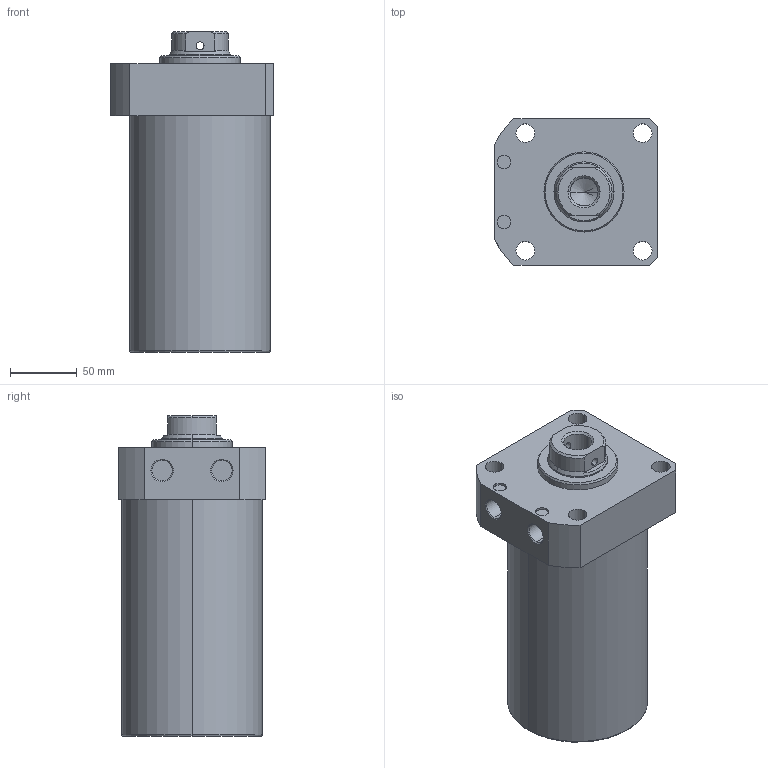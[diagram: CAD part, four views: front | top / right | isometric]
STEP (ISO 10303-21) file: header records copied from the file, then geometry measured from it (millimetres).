
FILE_DESCRIPTION (( 'STEP AP203' ), '1' );
FILE_NAME ('CLLR-105CB-130.STEP', '2019-12-18T07:39:40', ( '' ), ( '' ), 'SwSTEP 2.0', 'SolidWorks 2015', '' );
FILE_SCHEMA (( 'CONFIG_CONTROL_DESIGN' ));
Length unit declared in the file: millimetre
Products named in the file (1): CLLR-105CB-130
Bounding box: 122 x 110 x 240 mm (x, y, z)
Volume: 2029373.8 mm3; surface area: 117149 mm2
Topology: 1 solids, 1 shells, 69 faces, 165 edges, 104 vertices
Faces by surface type: cylinder 33, plane 19, cone 15, torus 2
Entity records: 2227 total; most frequent: CARTESIAN_POINT 481, DIRECTION 372, ORIENTED_EDGE 326, EDGE_CURVE 163, AXIS2_PLACEMENT_3D 151, VERTEX_POINT 104, EDGE_LOOP 89, CIRCLE 81
